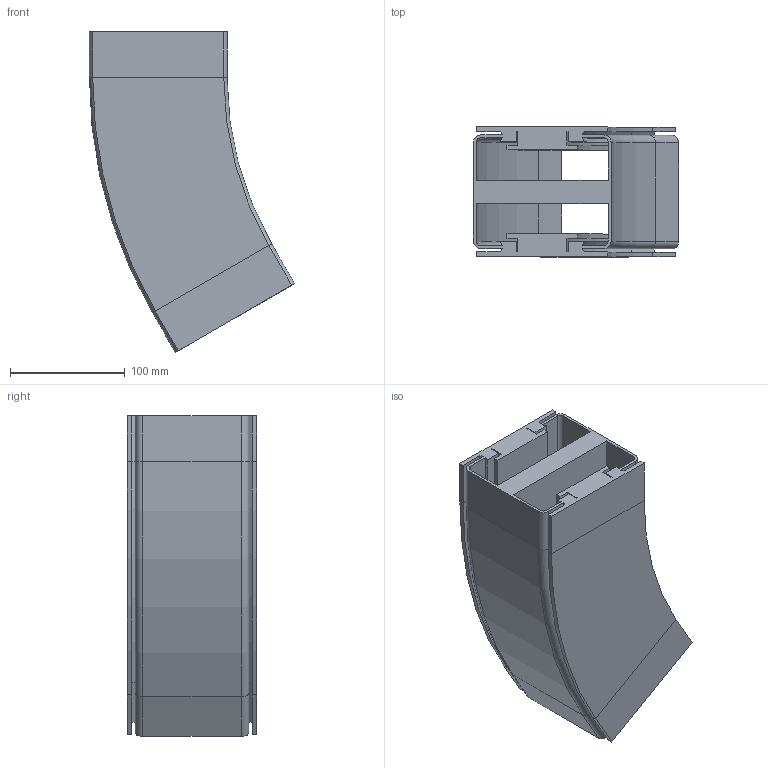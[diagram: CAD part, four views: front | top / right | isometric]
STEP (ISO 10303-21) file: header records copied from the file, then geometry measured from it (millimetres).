
FILE_DESCRIPTION (( 'STEP AP214' ), '1' );
FILE_NAME ('VC.120 Horizontale bochtsectie.R350 30.STEP', '2017-02-08T07:48:17', ( '' ), ( '' ), 'SwSTEP 2.0', 'SolidWorks 2016', '' );
FILE_SCHEMA (( 'AUTOMOTIVE_DESIGN' ));
Length unit declared in the file: millimetre
Products named in the file (1): VC.120 Horizontale bochtsectie.R350 30
Bounding box: 178.85 x 113 x 279.64 mm (x, y, z)
Volume: 1552212.7 mm3; surface area: 387123.2 mm2
Topology: 1 solids, 1 shells, 206 faces, 476 edges, 272 vertices
Faces by surface type: plane 152, cylinder 38, cone 8, torus 8
Entity records: 5674 total; most frequent: DIRECTION 990, CARTESIAN_POINT 955, ORIENTED_EDGE 952, EDGE_CURVE 476, VECTOR 376, LINE 376, AXIS2_PLACEMENT_3D 307, VERTEX_POINT 272
